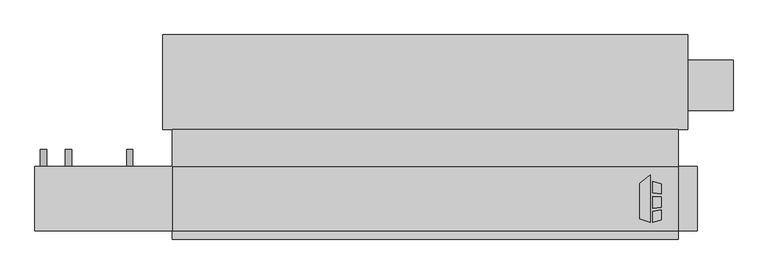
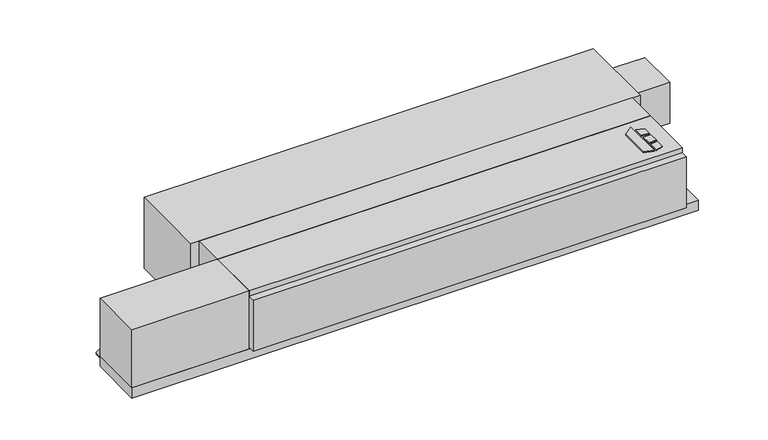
"""IFC4 building model written with IfcOpenShell, lengths in millimetres: proxy geometry, Concealed_Horizontal_Fan_Coil_Unit_With_Plenum_-_CPF_-_IEC_-_2-Pipe_LH : Size 12 - 115v/60Hz/1Ph - 4/1 Coil."""

import ifcopenshell
import ifcopenshell.guid

model = None  # the IFC model being written
_history = None  # IfcOwnerHistory: only IFC2X3 demands one
_inside = {}  # id of a spatial element -> (the spatial element, [elements in it])
_under = {}  # id of a project, library or spatial element -> (it, [spatial elements below it])
_declared = {}  # id of a project -> (the project, [libraries it declares])
_typed = {}  # id of a type object -> (the type object, [elements of that type])
_made_of = {}  # id of a material, layer set ... -> (it, [elements and type objects made of it])


def new_model(schema):
    """Start an empty IFC model of exactly this schema.

    Asked for "IFC4X3", IfcOpenShell would pick the latest addendum, in which some entities
    have other attributes; the version numbers below select the first issue.
    IFC2X3 requires an IfcOwnerHistory on every rooted entity: one is made here for all.
    """
    global model, _history
    if schema == "IFC4X3":
        model = ifcopenshell.file(schema_version=(4, 3, 0, 0))
    else:
        model = ifcopenshell.file(schema=schema)
    _inside.clear()
    _under.clear()
    _declared.clear()
    _typed.clear()
    _made_of.clear()
    _history = None
    if model.schema == "IFC2X3":
        org = make("IfcOrganization", Name="unknown")
        user = make(
            "IfcPersonAndOrganization",
            ThePerson=make("IfcPerson", FamilyName="unknown"),
            TheOrganization=org,
        )
        app = make(
            "IfcApplication",
            ApplicationDeveloper=org,
            Version="unknown",
            ApplicationFullName="unknown",
            ApplicationIdentifier="unknown",
        )
        _history = make(
            "IfcOwnerHistory",
            OwningUser=user,
            OwningApplication=app,
            ChangeAction="ADDED",
            CreationDate=0,
        )
    return model


def make(cls, **values):
    """One entity of the class cls with the attributes given. An attribute that is None is left unset."""
    return model.create_entity(
        cls, **{name: value for name, value in values.items() if value is not None}
    )


def rooted(cls, **values):
    """An entity with a GlobalId (a new one), such as an element, a storey or a relation."""
    return make(cls, GlobalId=ifcopenshell.guid.new(), OwnerHistory=_history, **values)


def si_unit(unit_type, name, prefix=None):
    """IfcSIUnit, for example si_unit("LENGTHUNIT", "METRE", prefix="MILLI")."""
    return make("IfcSIUnit", UnitType=unit_type, Prefix=prefix, Name=name)


def assignment(units):
    """IfcUnitAssignment: the units of a project."""
    return None if units is None else make("IfcUnitAssignment", Units=units)


def point(xyz):
    """IfcCartesianPoint."""
    return None if xyz is None else make("IfcCartesianPoint", Coordinates=xyz)


def direction(xyz):
    """IfcDirection."""
    return None if xyz is None else make("IfcDirection", DirectionRatios=xyz)


def frame(location, z_axis=None, x_axis=None):
    """IfcAxis2Placement3D, a coordinate frame: its origin and axes. An axis left out is left unset."""
    return make(
        "IfcAxis2Placement3D",
        Location=point(location),
        Axis=direction(z_axis),
        RefDirection=direction(x_axis),
    )


def frame_2d(location, x_axis=None):
    """IfcAxis2Placement2D, a coordinate frame in the plane: its origin and x axis."""
    return make(
        "IfcAxis2Placement2D", Location=point(location), RefDirection=direction(x_axis)
    )


def origin():
    """The frame at (0, 0, 0) with its axes left unset."""
    return frame((0.0, 0.0, 0.0))


def origin_with_axes():
    """The frame at (0, 0, 0) with the z axis (0, 0, 1) and the x axis (1, 0, 0) written out."""
    return frame((0.0, 0.0, 0.0), z_axis=(0.0, 0.0, 1.0), x_axis=(1.0, 0.0, 0.0))


def place(relative_to, where):
    """IfcLocalPlacement: puts the frame where relative to a parent placement (None: the world)."""
    return make(
        "IfcLocalPlacement", PlacementRelTo=relative_to, RelativePlacement=where
    )


def context(
    kind, dimensions, precision=None, world=None, true_north=None, identifier=None
):
    """IfcGeometricRepresentationContext, for example the 3D "Model" context."""
    return make(
        "IfcGeometricRepresentationContext",
        ContextIdentifier=identifier,
        ContextType=kind,
        CoordinateSpaceDimension=dimensions,
        Precision=precision,
        WorldCoordinateSystem=world,
        TrueNorth=true_north,
    )


def project(units=None, contexts=None):
    """IfcProject with its units and contexts."""
    return rooted(
        "IfcProject",
        Name="project",
        RepresentationContexts=contexts,
        UnitsInContext=assignment(units),
    )


def spatial(cls, under=None, at=None, **own):
    """A site, building, storey or space (cls), placed at a placement, below another one or the project."""
    s = rooted(cls, ObjectPlacement=at, **own)
    if under is not None:
        _under.setdefault(under.id(), (under, []))[1].append(s)
    return s


def polyline(points):
    """IfcPolyline through the points."""
    return make("IfcPolyline", Points=[point(p) for p in points])


def circle_curve(where, radius):
    """IfcCircle in the frame where."""
    return make("IfcCircle", Position=where, Radius=radius)


def trimmed(basis, trim1, trim2, sense, master):
    """IfcTrimmedCurve: the piece of a basis curve between two trims."""
    return make(
        "IfcTrimmedCurve",
        BasisCurve=basis,
        Trim1=trim1,
        Trim2=trim2,
        SenseAgreement=sense,
        MasterRepresentation=master,
    )


def segment(curve, same_sense, transition):
    """IfcCompositeCurveSegment."""
    return make(
        "IfcCompositeCurveSegment",
        Transition=transition,
        SameSense=same_sense,
        ParentCurve=curve,
    )


def composite_curve(segments, self_intersect=None):
    """IfcCompositeCurve: segments joined end to end."""
    return make("IfcCompositeCurve", Segments=segments, SelfIntersect=self_intersect)


def outline(outer, holes=None, kind="AREA"):
    """IfcArbitraryClosedProfileDef: a profile drawn as a closed curve; with holes, ...WithVoids."""
    if holes is None:
        return make("IfcArbitraryClosedProfileDef", ProfileType=kind, OuterCurve=outer)
    return make(
        "IfcArbitraryProfileDefWithVoids",
        ProfileType=kind,
        OuterCurve=outer,
        InnerCurves=holes,
    )


def extrude(swept, where, along, depth):
    """IfcExtrudedAreaSolid: the profile swept, set in the frame where, extruded along a direction by depth."""
    return make(
        "IfcExtrudedAreaSolid",
        SweptArea=swept,
        Position=where,
        ExtrudedDirection=direction(along),
        Depth=depth,
    )


def shape(context_of_items, identifier, shape_type, items):
    """IfcShapeRepresentation: the items that make up one representation, for example the "Body"."""
    return make(
        "IfcShapeRepresentation",
        ContextOfItems=context_of_items,
        RepresentationIdentifier=identifier,
        RepresentationType=shape_type,
        Items=items,
    )


def source(mapping_origin, context_of_items, identifier, shape_type, items):
    """IfcRepresentationMap: a shape defined once, which mapped items show again and again."""
    return make(
        "IfcRepresentationMap",
        MappingOrigin=mapping_origin,
        MappedRepresentation=shape(context_of_items, identifier, shape_type, items),
    )


def transform(
    local_origin,
    x_axis=None,
    y_axis=None,
    z_axis=None,
    scale=None,
    scale2=None,
    scale3=None,
    uniform=True,
):
    """IfcCartesianTransformationOperator3D, or its non-uniform kind. x_axis, y_axis, z_axis: its Axis1, 2, 3."""
    if uniform:
        return make(
            "IfcCartesianTransformationOperator3D",
            Axis1=direction(x_axis),
            Axis2=direction(y_axis),
            LocalOrigin=point(local_origin),
            Scale=scale,
            Axis3=direction(z_axis),
        )
    return make(
        "IfcCartesianTransformationOperator3DnonUniform",
        Axis1=direction(x_axis),
        Axis2=direction(y_axis),
        LocalOrigin=point(local_origin),
        Scale=scale,
        Axis3=direction(z_axis),
        Scale2=scale2,
        Scale3=scale3,
    )


def mapped(mapping_source, mapping_target):
    """IfcMappedItem: shows the shape of a source again, moved by a transform."""
    return make(
        "IfcMappedItem", MappingSource=mapping_source, MappingTarget=mapping_target
    )


def made_of(thing, what):
    """Note that an element or type object is made of a material, layer set ...; save() writes the relation."""
    if what is not None:
        _made_of.setdefault(what.id(), (what, []))[1].append(thing)
    return thing


def element(
    cls,
    number,
    at=None,
    inside=None,
    cuts=None,
    type_object=None,
    material=None,
    context=None,
    identifier="Body",
    shape_type=None,
    held_by="IfcProductDefinitionShape",
    body=None,
    shapes=None,
    **own,
):
    """One element of the class cls, such as IfcWall. Its Tag is "e" and its number.

    at: its placement. inside: the storey or other place that contains it. cuts: it is an
    opening in that element (IfcRelVoidsElement). A single representation is given by context,
    identifier, shape_type and body (its items); several are given by shapes. held_by: the class
    of the entity that holds the representations. save() writes the other relations.
    """
    e = rooted(cls, Tag="e%d" % number, ObjectPlacement=at, **own)
    if body is not None:
        shapes = [shape(context, identifier, shape_type, body)]
    if shapes is not None:
        e.Representation = make(held_by, Representations=shapes)
    if inside is not None:
        _inside.setdefault(inside.id(), (inside, []))[1].append(e)
    if cuts is not None:
        rooted(
            "IfcRelVoidsElement", RelatingBuildingElement=cuts, RelatedOpeningElement=e
        )
    if type_object is not None:
        _typed.setdefault(type_object.id(), (type_object, []))[1].append(e)
    return made_of(e, material)


def aggregate(whole, parts):
    """IfcRelAggregates: a whole, such as a stair, and the parts it consists of."""
    return rooted("IfcRelAggregates", RelatingObject=whole, RelatedObjects=parts)


def save(model, path):
    """Write the relations noted so far, then the file.

    IfcRelAggregates (storeys below a building ...), IfcRelContainedInSpatialStructure (elements
    in a storey), IfcRelDefinesByType, IfcRelAssociatesMaterial and IfcRelDeclares: one each for
    every whole, place, type object, material and project.
    """
    for whole, parts in _under.values():
        aggregate(whole, parts)
    for where, things in _inside.values():
        rooted(
            "IfcRelContainedInSpatialStructure",
            RelatedElements=things,
            RelatingStructure=where,
        )
    for kind, things in _typed.values():
        rooted("IfcRelDefinesByType", RelatedObjects=things, RelatingType=kind)
    for what, things in _made_of.values():
        rooted("IfcRelAssociatesMaterial", RelatedObjects=things, RelatingMaterial=what)
    for by, libraries in _declared.values():
        rooted("IfcRelDeclares", RelatingContext=by, RelatedDefinitions=libraries)
    model.write(path)


def mechanical_equipment_53f54806(model_context):
    return source(origin(), model_context, "Body", "SweptSolid", [
        extrude(outline(polyline([(798.2019761, -193.0453476), (830.7602728, -167.6080184), (830.7602728, -309.5625), (798.2019761, -299.3429201), (798.2019761, -193.0453476)])), origin_with_axes(), (0.0, 0.0, 1.0), 3.175),
        extrude(outline(polyline([(837.5186058, -220.917352), (837.5186058, -186.4374379), (863.6, -194.6240115), (863.6, -224.1197446), (837.5186058, -220.917352)])), origin_with_axes(), (0.0, 0.0, 1.0), 3.175),
        extrude(outline(polyline([(863.6, -302.5740115), (837.5186058, -309.5625), (837.5186058, -276.3411996), (863.6, -272.7993564), (863.6, -302.5740115)])), origin_with_axes(), (0.0, 0.0, 1.0), 3.175),
        extrude(outline(polyline([(863.6, -233.2013277), (863.6, -264.451483), (837.5186058, -267.192748), (837.5186058, -231.3350378), (863.6, -233.2013277)])), origin_with_axes(), (0.0, 0.0, 1.0), 3.175),
        extrude(outline(polyline([(-609.6, -30.1625), (914.4, -30.1625), (914.4, -141.2875), (-609.6, -141.2875), (-609.6, -30.1625)])), frame((0.0, 0.0, -215.9), z_axis=(0.0, 0.0, 1.0), x_axis=(1.0, 0.0, 0.0)), (0.0, 0.0, 1.0), 215.9),
        extrude(outline(polyline([(-1022.35, -334.9625), (-1022.35, -141.2875), (-609.6, -141.2875), (-609.6, -334.9625), (-1022.35, -334.9625)])), frame((0.0, 0.0, -215.9), z_axis=(0.0, 0.0, 1.0), x_axis=(1.0, 0.0, 0.0)), (0.0, 0.0, 1.0), 215.9),
        extrude(outline(polyline([(971.55, -141.2875), (971.55, -334.9625), (-1022.35, -334.9625), (-1022.35, -141.2875), (971.55, -141.2875)])), frame((0.0, 0.0, -254.0), z_axis=(0.0, 0.0, 1.0), x_axis=(1.0, 0.0, 0.0)), (0.0, 0.0, 1.0), 38.1),
        extrude(outline(composite_curve([segment(trimmed(circle_curve(frame_2d((-158.75, -920.75)), 9.525), [point((-158.75, -911.225))], [point((-158.75, -930.275))], False, "CARTESIAN"), True, "CONTINUOUS"), segment(trimmed(circle_curve(frame_2d((-158.75, -920.75)), 9.525), [point((-158.75, -930.275))], [point((-158.75, -911.225))], False, "CARTESIAN"), True, "CONTINUOUS")], self_intersect=False)), frame((0.0, -141.2875, 0.0), z_axis=(0.0, 1.0, 0.0), x_axis=(0.0, 0.0, 1.0)), (0.0, 0.0, 1.0), 50.8),
        extrude(outline(composite_curve([segment(trimmed(circle_curve(frame_2d((-158.75, -736.6)), 9.525), [point((-158.75, -727.075))], [point((-158.75, -746.125))], False, "CARTESIAN"), True, "CONTINUOUS"), segment(trimmed(circle_curve(frame_2d((-158.75, -736.6)), 9.525), [point((-158.75, -746.125))], [point((-158.75, -727.075))], False, "CARTESIAN"), True, "CONTINUOUS")], self_intersect=False)), frame((0.0, -141.2875, 0.0), z_axis=(0.0, 1.0, 0.0), x_axis=(0.0, 0.0, 1.0)), (0.0, 0.0, 1.0), 50.8),
        extrude(outline(composite_curve([segment(trimmed(circle_curve(frame_2d((-241.3, -996.95)), 9.525), [point((-241.3, -1006.475))], [point((-241.3, -987.425))], False, "CARTESIAN"), True, "CONTINUOUS"), segment(trimmed(circle_curve(frame_2d((-241.3, -996.95)), 9.525), [point((-241.3, -987.425))], [point((-241.3, -1006.475))], False, "CARTESIAN"), True, "CONTINUOUS")], self_intersect=False)), frame((0.0, -141.2875, 0.0), z_axis=(0.0, 1.0, 0.0), x_axis=(0.0, 0.0, 1.0)), (0.0, 0.0, 1.0), 50.8),
        extrude(outline(polyline([(914.4, -334.9625), (914.4, -360.3625), (-609.6, -360.3625), (-609.6, -334.9625), (914.4, -334.9625)])), frame((0.0, 0.0, -209.55), z_axis=(0.0, 0.0, 1.0), x_axis=(1.0, 0.0, 0.0)), (0.0, 0.0, 1.0), 190.5),
        extrude(outline(polyline([(914.4, -334.9625), (-609.6, -334.9625), (-609.6, -141.2875), (914.4, -141.2875), (914.4, -334.9625)])), frame((0.0, 0.0, -215.9), z_axis=(0.0, 0.0, 1.0), x_axis=(1.0, 0.0, 0.0)), (0.0, 0.0, 1.0), 215.9),
        extrude(outline(polyline([(942.975, 26.9875), (942.975, 179.3875), (1079.5, 179.3875), (1079.5, 26.9875), (942.975, 26.9875)])), frame((0.0, 0.0, -187.325), z_axis=(0.0, 0.0, 1.0), x_axis=(1.0, 0.0, 0.0)), (0.0, 0.0, 1.0), 152.4),
        extrude(outline(polyline([(-638.175, 255.5875), (942.975, 255.5875), (942.975, -30.1625), (-638.175, -30.1625), (-638.175, 255.5875)])), frame((0.0, 0.0, -263.525), z_axis=(0.0, 0.0, 1.0), x_axis=(1.0, 0.0, 0.0)), (0.0, 0.0, 1.0), 263.525),
    ])


if __name__ == "__main__":
    model = new_model("IFC4")
    model_context = context("Model", 3, world=origin())
    ifc_project = project(units=[si_unit("LENGTHUNIT", "METRE", prefix="MILLI")], contexts=[model_context])
    site = spatial("IfcSite", under=ifc_project)
    building = spatial("IfcBuilding", under=site)
    placement = place(None, origin())
    mechanical_equipment_shape = mechanical_equipment_53f54806(model_context)
    element("IfcBuildingElementProxy", 1, Name="Concealed_Horizontal_Fan_Coil_Unit_With_Plenum_-_CPF_-_IEC_-_2-Pipe_LH : Size 12 - 115v/60Hz/1Ph - 4/1 Coil", ObjectType="Concealed_Horizontal_Fan_Coil_Unit_With_Plenum_-_CPF_-_IEC_-_2-Pipe_LH : Size 12 - 115v/60Hz/1Ph - 4/1 Coil", at=placement, inside=building, context=model_context, shape_type="MappedRepresentation", body=[
        mapped(mechanical_equipment_shape, transform((0.0, 0.0, 0.0), x_axis=(1.0, 0.0, 0.0), y_axis=(0.0, 1.0, 0.0), z_axis=(0.0, 0.0, 1.0))),
    ])
    save(model, "model.ifc")
